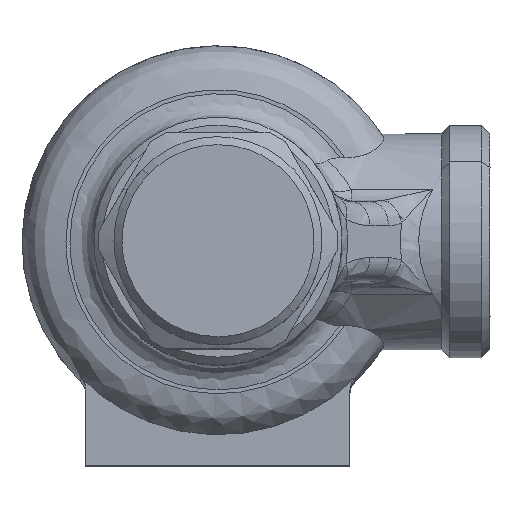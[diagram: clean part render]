
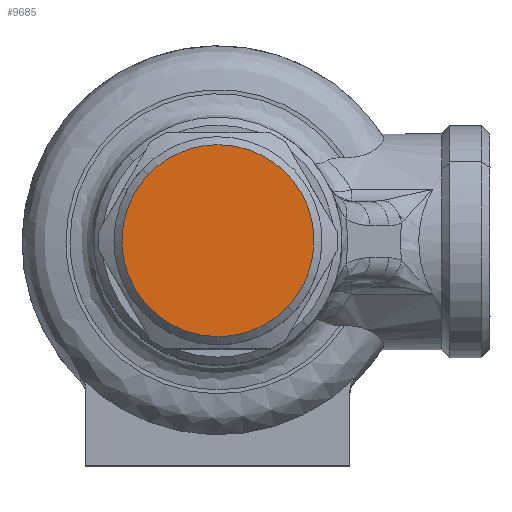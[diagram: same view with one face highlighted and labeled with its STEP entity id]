
A CAD part, top view. The second image highlights one B-rep face of the part: STEP entity #9685.
In plain terms, the highlighted free-form (B-spline) face has degree [1, 1] with [2, 2] control points.
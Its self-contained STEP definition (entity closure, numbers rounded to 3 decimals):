
#2217=CARTESIAN_POINT('',(-8.704,8.26,125.8));
#2218=VERTEX_POINT('',#2217);
#2226=CARTESIAN_POINT('',(0.,12.,125.8));
#2227=VERTEX_POINT('',#2226);
#2228=CARTESIAN_POINT('',(-8.704,8.26,125.8));
#2229=CARTESIAN_POINT('',(-8.111,8.886,125.8));
#2230=CARTESIAN_POINT('',(-7.138,9.711,125.8));
#2231=CARTESIAN_POINT('',(-5.532,10.686,125.8));
#2232=CARTESIAN_POINT('',(-3.998,11.368,125.8));
#2233=CARTESIAN_POINT('',(-2.08,11.878,125.8));
#2234=CARTESIAN_POINT('',(-0.71,12.,125.8));
#2235=CARTESIAN_POINT('',(0.,12.,125.8));
#2236=B_SPLINE_CURVE_WITH_KNOTS('',3,(#2228,#2229,#2230,#2231,#2232,#2233,#2234,#2235),.UNSPECIFIED.,.F.,.U.,(4,1,1,1,1,4),(0.,2.587,3.804,5.63,7.609,9.739),.UNSPECIFIED.);
#2237=EDGE_CURVE('',#2218,#2227,#2236,.T.);
#2239=CARTESIAN_POINT('',(12.,0.,125.8));
#2240=VERTEX_POINT('',#2239);
#2241=CARTESIAN_POINT('',(0.,12.,125.8));
#2242=CARTESIAN_POINT('',(4.971,12.,125.8));
#2243=CARTESIAN_POINT('',(8.485,8.485,125.8));
#2244=CARTESIAN_POINT('',(12.,4.971,125.8));
#2245=CARTESIAN_POINT('',(12.,0.,125.8));
#2253=(BOUNDED_CURVE()B_SPLINE_CURVE(2,(#2241,#2242,#2243,#2244,#2245),.UNSPECIFIED.,.F.,.U.)B_SPLINE_CURVE_WITH_KNOTS((3,2,3),(0.,0.5,1.),.UNSPECIFIED.)CURVE()GEOMETRIC_REPRESENTATION_ITEM()RATIONAL_B_SPLINE_CURVE((1.,0.924,1.,0.924,1.))REPRESENTATION_ITEM(''));
#2254=EDGE_CURVE('',#2227,#2240,#2253,.T.);
#2256=CARTESIAN_POINT('',(8.704,-8.26,125.8));
#2257=VERTEX_POINT('',#2256);
#2258=CARTESIAN_POINT('',(12.,0.,125.8));
#2259=CARTESIAN_POINT('',(12.,-2.305,125.8));
#2260=CARTESIAN_POINT('',(11.146,-4.447,125.8));
#2261=CARTESIAN_POINT('',(10.291,-6.588,125.8));
#2262=CARTESIAN_POINT('',(8.704,-8.26,125.8));
#2270=(BOUNDED_CURVE()B_SPLINE_CURVE(2,(#2258,#2259,#2260,#2261,#2262),.UNSPECIFIED.,.F.,.U.)B_SPLINE_CURVE_WITH_KNOTS((3,2,3),(0.,0.5,1.),.UNSPECIFIED.)CURVE()GEOMETRIC_REPRESENTATION_ITEM()RATIONAL_B_SPLINE_CURVE((1.,0.982,1.,0.982,1.))REPRESENTATION_ITEM(''));
#2271=EDGE_CURVE('',#2240,#2257,#2270,.T.);
#2384=CARTESIAN_POINT('',(0.,-12.,125.8));
#2385=VERTEX_POINT('',#2384);
#2386=CARTESIAN_POINT('',(8.704,-8.26,125.8));
#2387=CARTESIAN_POINT('',(8.146,-8.849,125.8));
#2388=CARTESIAN_POINT('',(7.102,-9.746,125.8));
#2389=CARTESIAN_POINT('',(5.575,-10.66,125.8));
#2390=CARTESIAN_POINT('',(3.997,-11.361,125.8));
#2391=CARTESIAN_POINT('',(2.181,-11.869,125.8));
#2392=CARTESIAN_POINT('',(0.71,-12.,125.8));
#2393=CARTESIAN_POINT('',(0.,-12.,125.8));
#2394=B_SPLINE_CURVE_WITH_KNOTS('',3,(#2386,#2387,#2388,#2389,#2390,#2391,#2392,#2393),.UNSPECIFIED.,.F.,.U.,(4,1,1,1,1,4),(0.,2.435,4.109,5.326,7.609,9.739),.UNSPECIFIED.);
#2395=EDGE_CURVE('',#2257,#2385,#2394,.T.);
#2397=CARTESIAN_POINT('',(-12.,0.,125.8));
#2398=VERTEX_POINT('',#2397);
#2399=CARTESIAN_POINT('',(0.,-12.,125.8));
#2400=CARTESIAN_POINT('',(-0.638,-12.,125.8));
#2401=CARTESIAN_POINT('',(-2.013,-11.89,125.8));
#2402=CARTESIAN_POINT('',(-4.161,-11.338,125.8));
#2403=CARTESIAN_POINT('',(-6.207,-10.355,125.8));
#2404=CARTESIAN_POINT('',(-8.147,-8.917,125.8));
#2405=CARTESIAN_POINT('',(-9.639,-7.27,125.8));
#2406=CARTESIAN_POINT('',(-10.713,-5.502,125.8));
#2407=CARTESIAN_POINT('',(-11.344,-4.006,125.8));
#2408=CARTESIAN_POINT('',(-11.853,-2.209,125.8));
#2409=CARTESIAN_POINT('',(-12.,-0.884,125.8));
#2410=CARTESIAN_POINT('',(-12.,0.,125.8));
#2411=B_SPLINE_CURVE_WITH_KNOTS('',3,(#2399,#2400,#2401,#2402,#2403,#2404,#2405,#2406,#2407,#2408,#2409,#2410),.UNSPECIFIED.,.F.,.U.,(4,1,1,1,1,1,1,1,1,4),(0.,1.914,4.123,6.627,8.689,11.339,13.254,14.874,16.199,18.85),.UNSPECIFIED.);
#2412=EDGE_CURVE('',#2385,#2398,#2411,.T.);
#2414=CARTESIAN_POINT('',(-12.,0.,125.8));
#2415=CARTESIAN_POINT('',(-12.,0.617,125.8));
#2416=CARTESIAN_POINT('',(-11.908,1.803,125.8));
#2417=CARTESIAN_POINT('',(-11.472,3.704,125.8));
#2418=CARTESIAN_POINT('',(-10.545,5.951,125.8));
#2419=CARTESIAN_POINT('',(-9.456,7.469,125.8));
#2420=CARTESIAN_POINT('',(-8.704,8.26,125.8));
#2421=B_SPLINE_CURVE_WITH_KNOTS('',3,(#2414,#2415,#2416,#2417,#2418,#2419,#2420),.UNSPECIFIED.,.F.,.U.,(4,1,1,1,4),(0.,1.851,3.559,5.837,9.111),.UNSPECIFIED.);
#2422=EDGE_CURVE('',#2398,#2218,#2421,.T.);
#9672=CARTESIAN_POINT('',(-13.199,-13.199,125.8));
#9673=CARTESIAN_POINT('',(13.199,-13.199,125.8));
#9674=CARTESIAN_POINT('',(-13.199,13.199,125.8));
#9675=CARTESIAN_POINT('',(13.199,13.199,125.8));
#9676=B_SPLINE_SURFACE_WITH_KNOTS('',1,1,((#9672,#9674),(#9673,#9675)),.UNSPECIFIED.,.F.,.F.,.U.,(2,2),(2,2),(0.,26.398),(0.,26.398),.UNSPECIFIED.);
#9677=ORIENTED_EDGE('',*,*,#2412,.F.);
#9678=ORIENTED_EDGE('',*,*,#2395,.F.);
#9679=ORIENTED_EDGE('',*,*,#2271,.F.);
#9680=ORIENTED_EDGE('',*,*,#2254,.F.);
#9681=ORIENTED_EDGE('',*,*,#2237,.F.);
#9682=ORIENTED_EDGE('',*,*,#2422,.F.);
#9683=EDGE_LOOP('',(#9677,#9678,#9679,#9680,#9681,#9682));
#9684=FACE_OUTER_BOUND('',#9683,.T.);
#9685=ADVANCED_FACE('',(#9684),#9676,.T.);
